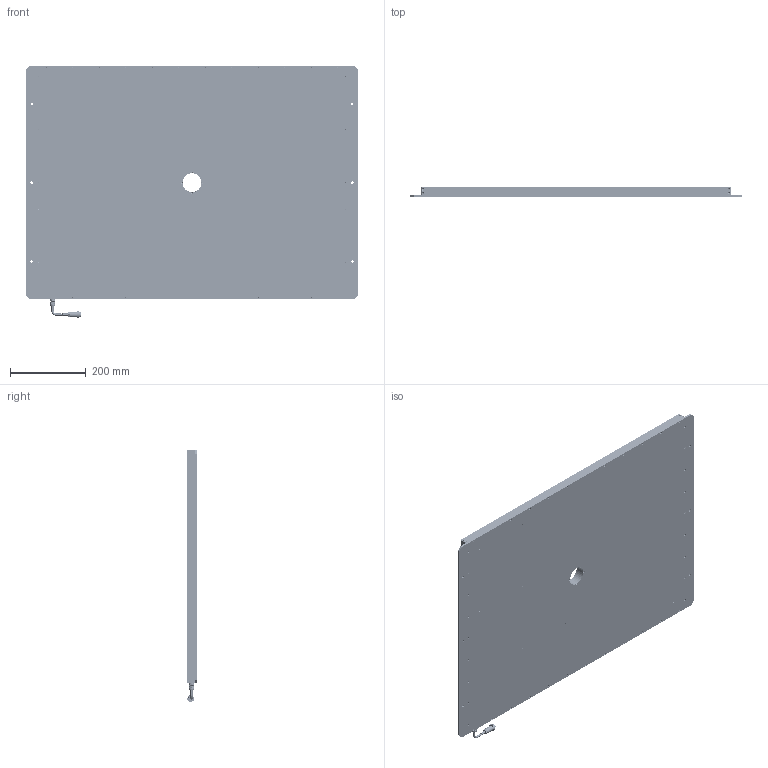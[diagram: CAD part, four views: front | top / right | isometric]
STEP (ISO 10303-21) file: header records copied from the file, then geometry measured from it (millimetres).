
FILE_DESCRIPTION (( 'STEP AP203' ), '1' );
FILE_NAME ('PPX-ZBO800600-W.STEP', '2021-10-18T06:22:47', ( 'Windows 蚚誧' ), ( 'Microsoft' ), 'SwSTEP 2.0', 'SolidWorks 2016', '' );
FILE_SCHEMA (( 'CONFIG_CONTROL_DESIGN' ));
Length unit declared in the file: millimetre
Products named in the file (11): PPX-ZBO800600笢遠; M10滅阨諉芛-Z-A1.0; 盄嫖盄第-Z-A1.0; PPX-ZBO800600PCB-8; PPX-ZBO800600菁啣; PPX-ZBO800600PCB2-8; PPX-ZBO800600傻晚; PPX-ZBO800600-W; PPX-ZBO800600酗晚; PPX-ZBO800600-W-M3; PPX-ZBO800600酗晚堤盄
Assembly tree (24 placements, depth 2):
  PPX-ZBO800600-W
    PPX-ZBO800600菁啣
    PPX-ZBO800600傻晚  x2
    PPX-ZBO800600酗晚
    PPX-ZBO800600-W-M3
    PPX-ZBO800600酗晚堤盄
    PPX-ZBO800600笢遠
    M10滅阨諉芛-Z-A1.0
    盄嫖盄第-Z-A1.0
    PPX-ZBO800600PCB-8  x14
    PPX-ZBO800600PCB2-8
Bounding box: 876 x 25.29 x 665 mm (x, y, z)
Volume: 4916960.8 mm3; surface area: 3303682.6 mm2
Topology: 31 solids, 31 shells, 39348 faces, 94825 edges, 62980 vertices
Faces by surface type: plane 38158, cylinder 750, cone 356, bspline 66, sphere 12, torus 6
Entity records: 188866 total; most frequent: CARTESIAN_POINT 35826, ORIENTED_EDGE 30954, DIRECTION 29497, EDGE_CURVE 15477, LINE 13767, VECTOR 13767, VERTEX_POINT 10226, AXIS2_PLACEMENT_3D 7865
